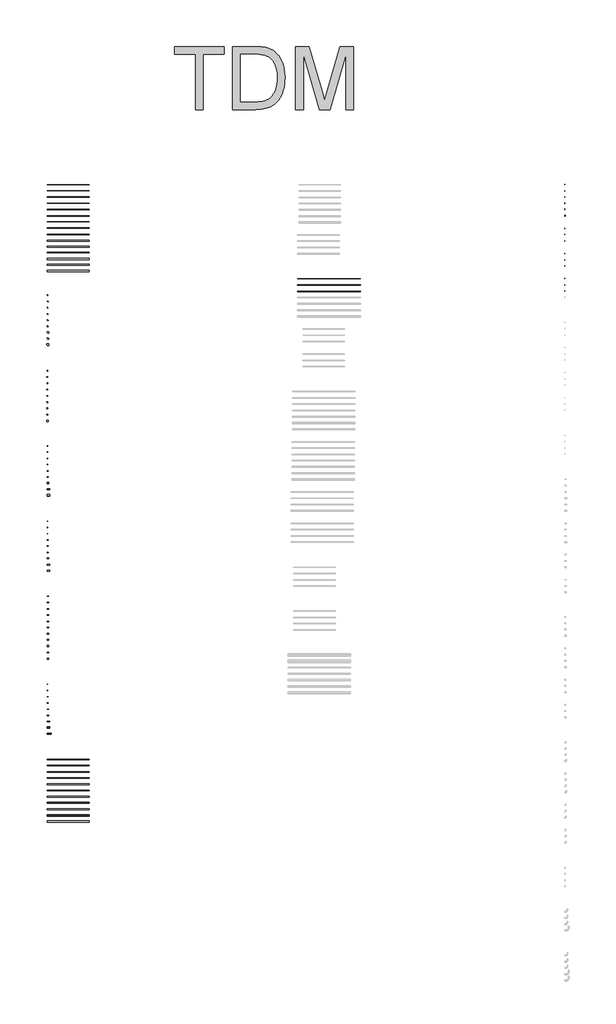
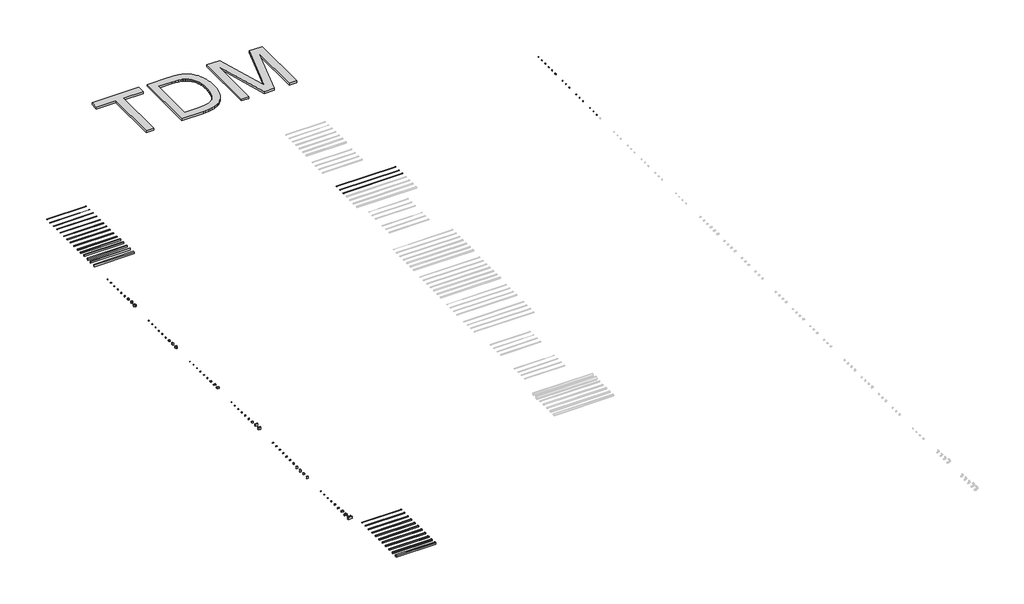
# One storey, part 3 of 3: 83 proxies, 15 cable carrier fittings, 3 cable carrier segments.
"""IFC4 building model written with IfcOpenShell, lengths in millimetres."""

from ifc_helpers import new_model, si_unit, point, frame, frame_2d, origin, place, context, project, spatial, polyline, circle_curve, trimmed, segment, composite_curve, outline, extrude, transform, mapped, element, save
from components import generic_models_2dbfc00d, generic_models_52ca76c0, generic_models_2ab848f6, generic_models_b20aceb6, generic_models_74bb6de7, generic_models_1a7fb3aa, generic_models_c3663f6d, generic_models_832ea7fc, generic_models_8934a4b0, generic_models_74339a0b, generic_models_bbe6288f, generic_models_85db04b4, generic_models_e5a57173, generic_models_41e2f946, generic_models_ccd5c1b6, generic_models_a05b5f7e, generic_models_28e29765, generic_models_53247dfa, generic_models_6c7df3c6, generic_models_ab56682e, generic_models_c4cd83af, generic_models_c2cfab9e, generic_models_fbb1afa0, generic_models_30738d87, generic_models_06d3f6ab, generic_models_bda7f662, generic_models_557376e7, generic_models_504aaa7c, generic_models_b7b44fcd, generic_models_d8408940, generic_models_b627e070, generic_models_ee9193d7, generic_models_7fb0075b, generic_models_c2dd201e, generic_models_ee7dcb77, generic_models_eb1d2137, generic_models_96342432, generic_models_cb125ba8, generic_models_8c66e826, generic_models_ad5ab705, generic_models_d6990168, generic_models_debb7f3b, generic_models_15927b50, generic_models_4f35b90a, generic_models_b8c16742, generic_models_8e5abc58, generic_models_aed9c40e, generic_models_47d5b641, generic_models_7e45a897, generic_models_1aee0386, generic_models_9b11d93a, generic_models_177de2f0, generic_models_317c2ff9, generic_models_c71bb332, generic_models_902de5ea, generic_models_53e93ef7, generic_models_1ed308b8, generic_models_b5a7e4ed, generic_models_b5faafe0, generic_models_9aea59b1, generic_models_825cb300, generic_models_8a0b4467, generic_models_da9c50e6, generic_models_e0031f47, generic_models_048f9fef, generic_models_c4528041, generic_models_a19dc477, generic_models_36f187a9, generic_models_360d6566, generic_models_2898697c, generic_models_235e8585, generic_models_2455add4, generic_models_a1a22cdc, generic_models_247a60de, generic_models_274725a3, generic_models_3b610377, cable_carrier_fitting_980a1c15, cable_carrier_fitting_b8314db6, cable_carrier_fitting_aa8de483, cable_carrier_fitting_233f67c3, cable_carrier_fitting_f0880343, cable_carrier_fitting_b63e1f67

model = new_model("IFC4")

# Units and contexts
model_context = context("Model", 3, world=origin())
ifc_project = project(units=[si_unit("LENGTHUNIT", "METRE", prefix="MILLI")], contexts=[model_context])

# Site, building, storey
site = spatial("IfcSite", under=ifc_project)
building = spatial("IfcBuilding", under=site)
storey = spatial("IfcBuildingStorey", under=building, Name="Уровень 2", Elevation=4000.0)

# Proxies
placement = place(None, origin())
element("IfcBuildingElementProxy", 1, Name="3000мм Arial", ObjectType="3000мм Arial", at=placement, inside=storey, context=model_context, shape_type="SweptSolid", body=[
    extrude(outline(polyline([(9610.1705997, 16919.659569), (9610.1705997, 19556.6377104), (8621.3037966, 19556.6377104), (8621.3037966, 19933.3488735), (10975.7485658, 19933.3488735), (10975.7485658, 19556.6377104), (9986.8817627, 19556.6377104), (9986.8817627, 16919.659569), (9610.1705997, 16919.659569)])), frame((0.0, 0.0, 3980.0), z_axis=(0.0, 0.0, 1.0), x_axis=(1.0, 0.0, 0.0)), (0.0, 0.0, 1.0), 100.0),
    extrude(outline(polyline([(11399.5486242, 16919.659569), (11399.5486242, 19933.3488735), (12439.1831426, 19933.3488735), (12604.9599667, 19930.6357438), (12749.8594875, 19922.4963546), (12873.8817051, 19908.9307061), (12977.0266195, 19889.9387981), (13040.6012268, 19873.5335603), (13101.8305864, 19854.1162888), (13160.7146982, 19831.6869834), (13217.2535624, 19806.2456442), (13271.4471788, 19777.7922711), (13323.2955475, 19746.3268642), (13372.7986685, 19711.8494235), (13419.9565417, 19674.3599489), (13477.679526, 19622.2126761), (13531.6547125, 19566.5705243), (13581.8821012, 19507.4334936), (13628.361692, 19444.8015839), (13671.093485, 19378.6747953), (13710.0774802, 19309.0531277), (13745.3136775, 19235.9365811), (13776.802077, 19159.3251556), (13804.5656714, 19079.5637406), (13828.6274531, 18996.9972253), (13848.9874223, 18911.6256098), (13865.6455789, 18823.4488941), (13878.6019229, 18732.4670781), (13887.8564543, 18638.680162), (13893.4091732, 18542.0881456), (13895.2600795, 18442.691029), (13890.2476873, 18276.1094631), (13875.2105108, 18119.2307848), (13850.1485498, 17972.0549941), (13815.0618045, 17834.582091), (13772.1115816, 17707.6857953), (13723.4591877, 17592.2398267), (13669.104623, 17488.2441852), (13609.0478872, 17395.6988708), (13544.6685381, 17313.5002375), (13477.346133, 17240.5446393), (13407.0806719, 17176.8320763), (13333.8721549, 17122.3625484), (13255.3523415, 17075.5265718), (13169.1529915, 17034.714663), (13075.2741049, 16999.9268218), (12973.7156816, 16971.1630483), (12864.3857511, 16948.6302761), (12747.192343, 16932.5354388), (12622.1354573, 16922.8785365), (12489.2150939, 16919.659569), (11399.5486242, 16919.659569)]), holes=[polyline([(11776.2597873, 17296.3707321), (12442.8619625, 17296.3707321), (12589.0490704, 17299.7736405), (12718.5895179, 17309.9823659), (12831.4833052, 17326.9969082), (12927.7304322, 17350.8172674), (13011.1476746, 17380.8456352), (13085.5518081, 17416.4842035), (13150.9428328, 17457.7329722), (13207.3207485, 17504.5919413), (13243.0915244, 17540.8570586), (13276.827453, 17580.1227135), (13308.5285343, 17622.3889058), (13338.1947683, 17667.6556357), (13365.826155, 17715.9229031), (13391.4226945, 17767.190708), (13436.5112315, 17878.7279304), (13455.7388139, 17939.0548295), (13472.4027187, 18002.4972292), (13498.0394952, 18138.7285305), (13513.4215611, 18287.4218345), (13518.5489164, 18448.577141), (13516.0369722, 18561.2869872), (13508.5011394, 18667.2829871), (13495.9414182, 18766.5651405), (13478.3578085, 18859.1334476), (13455.7503102, 18944.9879082), (13428.1189235, 19024.1285224), (13395.4636483, 19096.5552902), (13357.7844845, 19162.2682116), (13316.506975, 19222.0490358), (13273.0566625, 19276.6795121), (13227.433547, 19326.1596405), (13179.6376284, 19370.4894209), (13129.6689067, 19409.6688534), (13077.5273821, 19443.6979379), (13023.2130544, 19472.5766745), (12966.7259237, 19496.3050632), (12922.0052686, 19510.4455274), (12870.9846344, 19522.7005964), (12750.0434285, 19541.5545486), (12603.9023059, 19552.86692), (12432.5612667, 19556.6377104), (11776.2597873, 19556.6377104), (11776.2597873, 17296.3707321)])]), frame((0.0, 0.0, 3980.0), z_axis=(0.0, 0.0, 1.0), x_axis=(1.0, 0.0, 0.0)), (0.0, 0.0, 1.0), 100.0),
    extrude(outline(polyline([(14413.2379287, 16919.659569), (14413.2379287, 19933.3488735), (15061.4460042, 19933.3488735), (15678.0162281, 17809.1982333), (15802.3603425, 17365.5325472), (15937.0051527, 17845.9864329), (16543.2746808, 19933.3488735), (17191.4827563, 19933.3488735), (17191.4827563, 16919.659569), (16814.7715932, 16919.659569), (16814.7715932, 19556.6377104), (16057.6704471, 16919.659569), (15547.0502378, 16919.659569), (14789.9490918, 19556.6377104), (14789.9490918, 16919.659569), (14413.2379287, 16919.659569)])), frame((0.0, 0.0, 3980.0), z_axis=(0.0, 0.0, 1.0), x_axis=(1.0, 0.0, 0.0)), (0.0, 0.0, 1.0), 100.0),
])
generic_models_shape = generic_models_2dbfc00d(model_context)
element("IfcBuildingElementProxy", 2, Name="Внешний_угол_КМН : Внешний угол КМН 15х10", ObjectType="Внешний_угол_КМН : Внешний угол КМН 15х10", at=placement, inside=storey, context=model_context, shape_type="MappedRepresentation", body=[
    mapped(generic_models_shape, transform((2533.8954039, 8034.659569, 4000.0), x_axis=(1.0, 0.0, 0.0), y_axis=(0.0, 1.0, 0.0), z_axis=(0.0, 0.0, 1.0))),
])
generic_models_2_shape = generic_models_52ca76c0(model_context)
element("IfcBuildingElementProxy", 3, Name="Внешний_угол_КМН : Внешний угол КМН 100х60", ObjectType="Внешний_угол_КМН : Внешний угол КМН 100х60", at=placement, inside=storey, context=model_context, shape_type="MappedRepresentation", body=[
    mapped(generic_models_2_shape, transform((2533.8954039, 5659.659569, 4000.0), x_axis=(1.0, 0.0, 0.0), y_axis=(0.0, 1.0, 0.0), z_axis=(0.0, 0.0, 1.0))),
])
generic_models_3_shape = generic_models_2ab848f6(model_context)
element("IfcBuildingElementProxy", 4, Name="Внешний_угол_КМН : Внешний угол КМН 100х40", ObjectType="Внешний_угол_КМН : Внешний угол КМН 100х40", at=placement, inside=storey, context=model_context, shape_type="MappedRepresentation", body=[
    mapped(generic_models_3_shape, transform((2548.8954039, 5949.659569, 4000.0), x_axis=(1.0, 0.0, 0.0), y_axis=(0.0, 1.0, 0.0), z_axis=(0.0, 0.0, 1.0))),
])
generic_models_4_shape = generic_models_b20aceb6(model_context)
element("IfcBuildingElementProxy", 5, Name="Внешний_угол_КМН : Внешний угол КМН 60х40", ObjectType="Внешний_угол_КМН : Внешний угол КМН 60х40", at=placement, inside=storey, context=model_context, shape_type="MappedRepresentation", body=[
    mapped(generic_models_4_shape, transform((2548.8954039, 6249.659569, 4000.0), x_axis=(1.0, 0.0, 0.0), y_axis=(0.0, 1.0, 0.0), z_axis=(0.0, 0.0, 1.0))),
])
generic_models_5_shape = generic_models_74bb6de7(model_context)
element("IfcBuildingElementProxy", 6, Name="Внешний_угол_КМН : Внешний угол КМН 40х25", ObjectType="Внешний_угол_КМН : Внешний угол КМН 40х25", at=placement, inside=storey, context=model_context, shape_type="MappedRepresentation", body=[
    mapped(generic_models_5_shape, transform((2533.8954039, 6534.659569, 4000.0), x_axis=(1.0, 0.0, 0.0), y_axis=(0.0, 1.0, 0.0), z_axis=(0.0, 0.0, 1.0))),
])
generic_models_6_shape = generic_models_1a7fb3aa(model_context)
element("IfcBuildingElementProxy", 7, Name="Внешний_угол_КМН : Внешний угол КМН 40х16", ObjectType="Внешний_угол_КМН : Внешний угол КМН 40х16", at=placement, inside=storey, context=model_context, shape_type="MappedRepresentation", body=[
    mapped(generic_models_6_shape, transform((2533.8954039, 6834.659569, 4000.0), x_axis=(1.0, 0.0, 0.0), y_axis=(0.0, 1.0, 0.0), z_axis=(0.0, 0.0, 1.0))),
])
generic_models_7_shape = generic_models_c3663f6d(model_context)
element("IfcBuildingElementProxy", 8, Name="Внешний_угол_КМН : Внешний угол КМН 25х16", ObjectType="Внешний_угол_КМН : Внешний угол КМН 25х16", at=placement, inside=storey, context=model_context, shape_type="MappedRepresentation", body=[
    mapped(generic_models_7_shape, transform((2533.8954039, 7134.659569, 4000.0), x_axis=(1.0, 0.0, 0.0), y_axis=(0.0, 1.0, 0.0), z_axis=(0.0, 0.0, 1.0))),
])
generic_models_8_shape = generic_models_832ea7fc(model_context)
element("IfcBuildingElementProxy", 9, Name="Внешний_угол_КМН : Внешний угол КМН 20х10", ObjectType="Внешний_угол_КМН : Внешний угол КМН 20х10", at=placement, inside=storey, context=model_context, shape_type="MappedRepresentation", body=[
    mapped(generic_models_8_shape, transform((2533.8954039, 7434.659569, 4000.0), x_axis=(1.0, 0.0, 0.0), y_axis=(0.0, 1.0, 0.0), z_axis=(0.0, 0.0, 1.0))),
])
generic_models_9_shape = generic_models_8934a4b0(model_context)
element("IfcBuildingElementProxy", 10, Name="Внешний_угол_КМН : Внешний угол КМН 16х16", ObjectType="Внешний_угол_КМН : Внешний угол КМН 16х16", at=placement, inside=storey, context=model_context, shape_type="MappedRepresentation", body=[
    mapped(generic_models_9_shape, transform((2533.8954039, 7734.659569, 4000.0), x_axis=(1.0, 0.0, 0.0), y_axis=(0.0, 1.0, 0.0), z_axis=(0.0, 0.0, 1.0))),
])
generic_models_10_shape = generic_models_74339a0b(model_context)
element("IfcBuildingElementProxy", 11, Name="Внутренний_угол_КМВ : Внутренний угол КМВ 15х10", ObjectType="Внутренний_угол_КМВ : Внутренний угол КМВ 15х10", at=placement, inside=storey, context=model_context, shape_type="MappedRepresentation", body=[
    mapped(generic_models_10_shape, transform((2520.8954039, 4421.6710392, 4000.0), x_axis=(1.0, 0.0, 0.0), y_axis=(0.0, 1.0, 0.0), z_axis=(0.0, 0.0, 1.0))),
])
generic_models_11_shape = generic_models_bbe6288f(model_context)
element("IfcBuildingElementProxy", 12, Name="Внутренний_угол_КМВ : Внутренний угол КМВ 16х16", ObjectType="Внутренний_угол_КМВ : Внутренний угол КМВ 16х16", at=placement, inside=storey, context=model_context, shape_type="MappedRepresentation", body=[
    mapped(generic_models_11_shape, transform((2514.8839337, 4115.659569, 4000.0), x_axis=(1.0, 0.0, 0.0), y_axis=(0.0, 1.0, 0.0), z_axis=(0.0, 0.0, 1.0))),
])
generic_models_12_shape = generic_models_85db04b4(model_context)
element("IfcBuildingElementProxy", 13, Name="Внутренний_угол_КМВ : Внутренний угол КМВ 20х10", ObjectType="Внутренний_угол_КМВ : Внутренний угол КМВ 20х10", at=placement, inside=storey, context=model_context, shape_type="MappedRepresentation", body=[
    mapped(generic_models_12_shape, transform((2520.8954039, 3821.6710392, 4000.0), x_axis=(1.0, 0.0, 0.0), y_axis=(0.0, 1.0, 0.0), z_axis=(0.0, 0.0, 1.0))),
])
generic_models_13_shape = generic_models_e5a57173(model_context)
element("IfcBuildingElementProxy", 14, Name="Внутренний_угол_КМВ : Внутренний угол КМВ 25х16", ObjectType="Внутренний_угол_КМВ : Внутренний угол КМВ 25х16", at=placement, inside=storey, context=model_context, shape_type="MappedRepresentation", body=[
    mapped(generic_models_13_shape, transform((2514.8839337, 3515.659569, 4000.0), x_axis=(1.0, 0.0, 0.0), y_axis=(0.0, 1.0, 0.0), z_axis=(0.0, 0.0, 1.0))),
])
generic_models_14_shape = generic_models_41e2f946(model_context)
element("IfcBuildingElementProxy", 15, Name="Внутренний_угол_КМВ : Внутренний угол КМВ 40х16", ObjectType="Внутренний_угол_КМВ : Внутренний угол КМВ 40х16", at=placement, inside=storey, context=model_context, shape_type="MappedRepresentation", body=[
    mapped(generic_models_14_shape, transform((2514.8839337, 3215.659569, 4000.0), x_axis=(1.0, 0.0, 0.0), y_axis=(0.0, 1.0, 0.0), z_axis=(0.0, 0.0, 1.0))),
])
generic_models_15_shape = generic_models_ccd5c1b6(model_context)
element("IfcBuildingElementProxy", 16, Name="Внутренний_угол_КМВ : Внутренний угол КМВ 40х25", ObjectType="Внутренний_угол_КМВ : Внутренний угол КМВ 40х25", at=placement, inside=storey, context=model_context, shape_type="MappedRepresentation", body=[
    mapped(generic_models_15_shape, transform((2505.8954039, 2906.6710392, 4000.0), x_axis=(1.0, 0.0, 0.0), y_axis=(0.0, 1.0, 0.0), z_axis=(0.0, 0.0, 1.0))),
])
generic_models_16_shape = generic_models_a05b5f7e(model_context)
element("IfcBuildingElementProxy", 17, Name="Внутренний_угол_КМВ : Внутренний угол КМВ 60х40", ObjectType="Внутренний_угол_КМВ : Внутренний угол КМВ 60х40", at=placement, inside=storey, context=model_context, shape_type="MappedRepresentation", body=[
    mapped(generic_models_16_shape, transform((2505.8954039, 2606.6710392, 4000.0), x_axis=(1.0, 0.0, 0.0), y_axis=(0.0, 1.0, 0.0), z_axis=(0.0, 0.0, 1.0))),
])
generic_models_17_shape = generic_models_28e29765(model_context)
element("IfcBuildingElementProxy", 18, Name="Внутренний_угол_КМВ : Внутренний угол КМВ 100х40", ObjectType="Внутренний_угол_КМВ : Внутренний угол КМВ 100х40", at=placement, inside=storey, context=model_context, shape_type="MappedRepresentation", body=[
    mapped(generic_models_17_shape, transform((2505.8954039, 2306.6710392, 4000.0), x_axis=(1.0, 0.0, 0.0), y_axis=(0.0, 1.0, 0.0), z_axis=(0.0, 0.0, 1.0))),
])
generic_models_18_shape = generic_models_53247dfa(model_context)
element("IfcBuildingElementProxy", 19, Name="Внутренний_угол_КМВ : Внутренний угол КМВ 100х60", ObjectType="Внутренний_угол_КМВ : Внутренний угол КМВ 100х60", at=placement, inside=storey, context=model_context, shape_type="MappedRepresentation", body=[
    mapped(generic_models_18_shape, transform((2495.8954039, 1996.6710392, 4000.0), x_axis=(1.0, 0.0, 0.0), y_axis=(0.0, 1.0, 0.0), z_axis=(0.0, 0.0, 1.0))),
])
generic_models_19_shape = generic_models_6c7df3c6(model_context)
element("IfcBuildingElementProxy", 20, Name="Заглушка_кабельной_трассы КМЗ : Заглушка кабельной трассы КМЗ 15х10", ObjectType="Заглушка_кабельной_трассы КМЗ : Заглушка кабельной трассы КМЗ 15х10", at=placement, inside=storey, context=model_context, shape_type="MappedRepresentation", body=[
    mapped(generic_models_19_shape, transform((2570.8954039, 838.1090761, 4000.0), x_axis=(1.0, 0.0, 0.0), y_axis=(0.0, 1.0, 0.0), z_axis=(0.0, 0.0, 1.0))),
])
generic_models_20_shape = generic_models_ab56682e(model_context)
element("IfcBuildingElementProxy", 21, Name="Заглушка_кабельной_трассы КМЗ : Заглушка кабельной трассы КМЗ 100х40", ObjectType="Заглушка_кабельной_трассы КМЗ : Заглушка кабельной трассы КМЗ 100х40", at=placement, inside=storey, context=model_context, shape_type="MappedRepresentation", body=[
    mapped(generic_models_20_shape, transform((2570.8954039, -1220.3077137, 4000.0), x_axis=(1.0, 0.0, 0.0), y_axis=(0.0, 1.0, 0.0), z_axis=(0.0, 0.0, 1.0))),
])
generic_models_21_shape = generic_models_c4cd83af(model_context)
element("IfcBuildingElementProxy", 22, Name="Заглушка_кабельной_трассы КМЗ : Заглушка кабельной трассы КМЗ 100х60", ObjectType="Заглушка_кабельной_трассы КМЗ : Заглушка кабельной трассы КМЗ 100х60", at=placement, inside=storey, context=model_context, shape_type="MappedRepresentation", body=[
    mapped(generic_models_21_shape, transform((2570.8954039, -1492.1104348, 4000.0), x_axis=(1.0, 0.0, 0.0), y_axis=(0.0, 1.0, 0.0), z_axis=(0.0, 0.0, 1.0))),
])
generic_models_22_shape = generic_models_c2cfab9e(model_context)
element("IfcBuildingElementProxy", 23, Name="Заглушка_кабельной_трассы КМЗ : Заглушка кабельной трассы КМЗ 16х16", ObjectType="Заглушка_кабельной_трассы КМЗ : Заглушка кабельной трассы КМЗ 16х16", at=placement, inside=storey, context=model_context, shape_type="MappedRepresentation", body=[
    mapped(generic_models_22_shape, transform((2570.8954039, 546.1617396, 4000.0), x_axis=(1.0, 0.0, 0.0), y_axis=(0.0, 1.0, 0.0), z_axis=(0.0, 0.0, 1.0))),
])
generic_models_23_shape = generic_models_fbb1afa0(model_context)
element("IfcBuildingElementProxy", 24, Name="Заглушка_кабельной_трассы КМЗ : Заглушка кабельной трассы КМЗ 20х10", ObjectType="Заглушка_кабельной_трассы КМЗ : Заглушка кабельной трассы КМЗ 20х10", at=placement, inside=storey, context=model_context, shape_type="MappedRepresentation", body=[
    mapped(generic_models_23_shape, transform((2570.8954039, 238.1090761, 4000.0), x_axis=(1.0, 0.0, 0.0), y_axis=(0.0, 1.0, 0.0), z_axis=(0.0, 0.0, 1.0))),
])
generic_models_24_shape = generic_models_30738d87(model_context)
element("IfcBuildingElementProxy", 25, Name="Заглушка_кабельной_трассы КМЗ : Заглушка кабельной трассы КМЗ 25х16", ObjectType="Заглушка_кабельной_трассы КМЗ : Заглушка кабельной трассы КМЗ 25х16", at=placement, inside=storey, context=model_context, shape_type="MappedRepresentation", body=[
    mapped(generic_models_24_shape, transform((2570.8954039, -53.8382604, 4000.0), x_axis=(1.0, 0.0, 0.0), y_axis=(0.0, 1.0, 0.0), z_axis=(0.0, 0.0, 1.0))),
])
generic_models_25_shape = generic_models_06d3f6ab(model_context)
element("IfcBuildingElementProxy", 26, Name="Заглушка_кабельной_трассы КМЗ : Заглушка кабельной трассы КМЗ 40х16", ObjectType="Заглушка_кабельной_трассы КМЗ : Заглушка кабельной трассы КМЗ 40х16", at=placement, inside=storey, context=model_context, shape_type="MappedRepresentation", body=[
    mapped(generic_models_25_shape, transform((2570.8954039, -353.8382604, 4000.0), x_axis=(1.0, 0.0, 0.0), y_axis=(0.0, 1.0, 0.0), z_axis=(0.0, 0.0, 1.0))),
])
generic_models_26_shape = generic_models_bda7f662(model_context)
element("IfcBuildingElementProxy", 27, Name="Заглушка_кабельной_трассы КМЗ : Заглушка кабельной трассы КМЗ 40х25", ObjectType="Заглушка_кабельной_трассы КМЗ : Заглушка кабельной трассы КМЗ 40х25", at=placement, inside=storey, context=model_context, shape_type="MappedRepresentation", body=[
    mapped(generic_models_26_shape, transform((2570.8954039, -641.3601779, 4000.0), x_axis=(1.0, 0.0, 0.0), y_axis=(0.0, 1.0, 0.0), z_axis=(0.0, 0.0, 1.0))),
])
generic_models_27_shape = generic_models_557376e7(model_context)
element("IfcBuildingElementProxy", 28, Name="Заглушка_кабельной_трассы КМЗ : Заглушка кабельной трассы КМЗ 60х40", ObjectType="Заглушка_кабельной_трассы КМЗ : Заглушка кабельной трассы КМЗ 60х40", at=placement, inside=storey, context=model_context, shape_type="MappedRepresentation", body=[
    mapped(generic_models_27_shape, transform((2570.8954039, -920.3077137, 4000.0), x_axis=(1.0, 0.0, 0.0), y_axis=(0.0, 1.0, 0.0), z_axis=(0.0, 0.0, 1.0))),
])
generic_models_28_shape = generic_models_504aaa7c(model_context)
element("IfcBuildingElementProxy", 29, Name="Кабель-каналы_перфорированные : Кабель-канал перфорированный 25х25 перфорация 4/6мм", ObjectType="Кабель-каналы_перфорированные : Кабель-канал перфорированный 25х25 перфорация 4/6мм", at=placement, inside=storey, context=model_context, shape_type="MappedRepresentation", body=[
    mapped(generic_models_28_shape, transform((2518.8954039, -14160.5496104, 4000.0), x_axis=(0.0, 1.0, 0.0), y_axis=(-1.0, 0.0, 0.0), z_axis=(0.0, 0.0, 1.0))),
])
generic_models_29_shape = generic_models_b7b44fcd(model_context)
element("IfcBuildingElementProxy", 30, Name="Кабель-каналы_перфорированные : Кабель-канал перфорированный 25х40 перфорация 4/6мм", ObjectType="Кабель-каналы_перфорированные : Кабель-канал перфорированный 25х40 перфорация 4/6мм", at=placement, inside=storey, context=model_context, shape_type="MappedRepresentation", body=[
    mapped(generic_models_29_shape, transform((2518.8954039, -14460.5496104, 4000.0), x_axis=(0.0, 1.0, 0.0), y_axis=(-1.0, 0.0, 0.0), z_axis=(0.0, 0.0, 1.0))),
])
element("IfcBuildingElementProxy", 31, Name="Кабель-каналы_перфорированные : Кабель-канал перфорированный 25х40 перфорация 6/7мм", ObjectType="Кабель-каналы_перфорированные : Кабель-канал перфорированный 25х40 перфорация 6/7мм", at=placement, inside=storey, context=model_context, shape_type="MappedRepresentation", body=[
    mapped(generic_models_29_shape, transform((2518.8954039, -14760.5496104, 4000.0), x_axis=(0.0, 1.0, 0.0), y_axis=(-1.0, 0.0, 0.0), z_axis=(0.0, 0.0, 1.0))),
])
generic_models_30_shape = generic_models_d8408940(model_context)
element("IfcBuildingElementProxy", 32, Name="Кабель-каналы_перфорированные : Кабель-канал перфорированный 40х40 перфорация 4/6мм", ObjectType="Кабель-каналы_перфорированные : Кабель-канал перфорированный 40х40 перфорация 4/6мм", at=placement, inside=storey, context=model_context, shape_type="MappedRepresentation", body=[
    mapped(generic_models_30_shape, transform((2518.8954039, -15045.5496104, 4000.0), x_axis=(0.0, 1.0, 0.0), y_axis=(-1.0, 0.0, 0.0), z_axis=(0.0, 0.0, 1.0))),
])
element("IfcBuildingElementProxy", 33, Name="Кабель-каналы_перфорированные : Кабель-канал перфорированный 40х40 перфорация 6/7мм", ObjectType="Кабель-каналы_перфорированные : Кабель-канал перфорированный 40х40 перфорация 6/7мм", at=placement, inside=storey, context=model_context, shape_type="MappedRepresentation", body=[
    mapped(generic_models_30_shape, transform((2518.8954039, -15345.5496104, 4000.0), x_axis=(0.0, 1.0, 0.0), y_axis=(-1.0, 0.0, 0.0), z_axis=(0.0, 0.0, 1.0))),
])
generic_models_31_shape = generic_models_b627e070(model_context)
element("IfcBuildingElementProxy", 34, Name="Кабель-каналы_перфорированные : Кабель-канал перфорированный 40х60 перфорация 4/6мм", ObjectType="Кабель-каналы_перфорированные : Кабель-канал перфорированный 40х60 перфорация 4/6мм", at=placement, inside=storey, context=model_context, shape_type="MappedRepresentation", body=[
    mapped(generic_models_31_shape, transform((2518.8954039, -15645.5496104, 4000.0), x_axis=(0.0, 1.0, 0.0), y_axis=(-1.0, 0.0, 0.0), z_axis=(0.0, 0.0, 1.0))),
])
element("IfcBuildingElementProxy", 35, Name="Кабель-каналы_перфорированные : Кабель-канал перфорированный 40х60 перфорация 6/8мм", ObjectType="Кабель-каналы_перфорированные : Кабель-канал перфорированный 40х60 перфорация 6/8мм", at=placement, inside=storey, context=model_context, shape_type="MappedRepresentation", body=[
    mapped(generic_models_31_shape, transform((2518.8954039, -15945.5496104, 4000.0), x_axis=(0.0, 1.0, 0.0), y_axis=(-1.0, 0.0, 0.0), z_axis=(0.0, 0.0, 1.0))),
])
generic_models_32_shape = generic_models_ee9193d7(model_context)
element("IfcBuildingElementProxy", 36, Name="Кабель-каналы_перфорированные : Кабель-канал перфорированный 50х50 перфорация 4/6мм", ObjectType="Кабель-каналы_перфорированные : Кабель-канал перфорированный 50х50 перфорация 4/6мм", at=placement, inside=storey, context=model_context, shape_type="MappedRepresentation", body=[
    mapped(generic_models_32_shape, transform((2518.8954039, -16235.5496104, 4000.0), x_axis=(0.0, 1.0, 0.0), y_axis=(-1.0, 0.0, 0.0), z_axis=(0.0, 0.0, 1.0))),
])
element("IfcBuildingElementProxy", 37, Name="Кабель-каналы_перфорированные : Кабель-канал перфорированный 50х50 перфорация 6/8мм", ObjectType="Кабель-каналы_перфорированные : Кабель-канал перфорированный 50х50 перфорация 6/8мм", at=placement, inside=storey, context=model_context, shape_type="MappedRepresentation", body=[
    mapped(generic_models_32_shape, transform((2518.8954039, -16535.5496104, 4000.0), x_axis=(0.0, 1.0, 0.0), y_axis=(-1.0, 0.0, 0.0), z_axis=(0.0, 0.0, 1.0))),
])
generic_models_33_shape = generic_models_7fb0075b(model_context)
element("IfcBuildingElementProxy", 38, Name="Кабель-каналы_перфорированные : Кабель-канал перфорированный 60х60 перфорация 4/7мм", ObjectType="Кабель-каналы_перфорированные : Кабель-канал перфорированный 60х60 перфорация 4/7мм", at=placement, inside=storey, context=model_context, shape_type="MappedRepresentation", body=[
    mapped(generic_models_33_shape, transform((2518.8954039, -16825.5496104, 4000.0), x_axis=(0.0, 1.0, 0.0), y_axis=(-1.0, 0.0, 0.0), z_axis=(0.0, 0.0, 1.0))),
])
generic_models_34_shape = generic_models_c2dd201e(model_context)
element("IfcBuildingElementProxy", 39, Name="Кабель-каналы_перфорированные : Кабель-канал перфорированный 80х80 перфорация 8/11мм", ObjectType="Кабель-каналы_перфорированные : Кабель-канал перфорированный 80х80 перфорация 8/11мм", at=placement, inside=storey, context=model_context, shape_type="MappedRepresentation", body=[
    mapped(generic_models_34_shape, transform((2518.8954039, -17105.5496104, 4000.0), x_axis=(0.0, 1.0, 0.0), y_axis=(-1.0, 0.0, 0.0), z_axis=(0.0, 0.0, 1.0))),
])
generic_models_35_shape = generic_models_ee7dcb77(model_context)
element("IfcBuildingElementProxy", 40, Name="Поворот_на_90_гр.КМП : Поворот на 90 гр. КМП 100x60", ObjectType="Поворот_на_90_гр.КМП : Поворот на 90 гр. КМП 100x60", at=placement, inside=storey, context=model_context, shape_type="MappedRepresentation", body=[
    mapped(generic_models_35_shape, transform((2636.3954039, -5118.8077137, 4002.0580612), x_axis=(1.0, 0.0, 0.0), y_axis=(0.0, 1.0, 0.0), z_axis=(0.0, 0.0, 1.0))),
])
generic_models_36_shape = generic_models_eb1d2137(model_context)
element("IfcBuildingElementProxy", 41, Name="Поворот_на_90_гр.КМП : Поворот на 90 гр. КМП 100x40", ObjectType="Поворот_на_90_гр.КМП : Поворот на 90 гр. КМП 100x40", at=placement, inside=storey, context=model_context, shape_type="MappedRepresentation", body=[
    mapped(generic_models_36_shape, transform((2634.3954039, -4838.8077137, 4002.0580612), x_axis=(1.0, 0.0, 0.0), y_axis=(0.0, 1.0, 0.0), z_axis=(0.0, 0.0, 1.0))),
])
generic_models_37_shape = generic_models_96342432(model_context)
element("IfcBuildingElementProxy", 42, Name="Поворот_на_90_гр.КМП : Поворот на 90 гр. КМП 60x40", ObjectType="Поворот_на_90_гр.КМП : Поворот на 90 гр. КМП 60x40", at=placement, inside=storey, context=model_context, shape_type="MappedRepresentation", body=[
    mapped(generic_models_37_shape, transform((2590.3954039, -4538.8077137, 4002.0580612), x_axis=(1.0, 0.0, 0.0), y_axis=(0.0, 1.0, 0.0), z_axis=(0.0, 0.0, 1.0))),
])
generic_models_38_shape = generic_models_cb125ba8(model_context)
element("IfcBuildingElementProxy", 43, Name="Поворот_на_90_гр.КМП : Поворот на 90 гр. КМП 40x25", ObjectType="Поворот_на_90_гр.КМП : Поворот на 90 гр. КМП 40x25", at=placement, inside=storey, context=model_context, shape_type="MappedRepresentation", body=[
    mapped(generic_models_38_shape, transform((2569.3954039, -4253.8077137, 4002.0580612), x_axis=(1.0, 0.0, 0.0), y_axis=(0.0, 1.0, 0.0), z_axis=(0.0, 0.0, 1.0))),
])
generic_models_39_shape = generic_models_8c66e826(model_context)
element("IfcBuildingElementProxy", 44, Name="Поворот_на_90_гр.КМП : Поворот на 90 гр. КМП 40x16", ObjectType="Поворот_на_90_гр.КМП : Поворот на 90 гр. КМП 40x16", at=placement, inside=storey, context=model_context, shape_type="MappedRepresentation", body=[
    mapped(generic_models_39_shape, transform((2568.3954039, -3962.8077137, 4002.0580612), x_axis=(1.0, 0.0, 0.0), y_axis=(0.0, 1.0, 0.0), z_axis=(0.0, 0.0, 1.0))),
])
generic_models_40_shape = generic_models_ad5ab705(model_context)
element("IfcBuildingElementProxy", 45, Name="Поворот_на_90_гр.КМП : Поворот на 90 гр. КМП 25х16", ObjectType="Поворот_на_90_гр.КМП : Поворот на 90 гр. КМП 25х16", at=placement, inside=storey, context=model_context, shape_type="MappedRepresentation", body=[
    mapped(generic_models_40_shape, transform((2551.3954039, -3662.8077137, 4002.0580612), x_axis=(1.0, 0.0, 0.0), y_axis=(0.0, 1.0, 0.0), z_axis=(0.0, 0.0, 1.0))),
])
generic_models_41_shape = generic_models_d6990168(model_context)
element("IfcBuildingElementProxy", 46, Name="Поворот_на_90_гр.КМП : Поворот на 90 гр. КМП 20x10", ObjectType="Поворот_на_90_гр.КМП : Поворот на 90 гр. КМП 20x10", at=placement, inside=storey, context=model_context, shape_type="MappedRepresentation", body=[
    mapped(generic_models_41_shape, transform((2546.3954039, -3368.8077137, 4002.0580612), x_axis=(1.0, 0.0, 0.0), y_axis=(0.0, 1.0, 0.0), z_axis=(0.0, 0.0, 1.0))),
])
generic_models_42_shape = generic_models_debb7f3b(model_context)
element("IfcBuildingElementProxy", 47, Name="Поворот_на_90_гр.КМП : Поворот на 90 гр. КМП 16х16", ObjectType="Поворот_на_90_гр.КМП : Поворот на 90 гр. КМП 16х16", at=placement, inside=storey, context=model_context, shape_type="MappedRepresentation", body=[
    mapped(generic_models_42_shape, transform((2543.8954039, -3062.8077137, 4002.0580612), x_axis=(1.0, 0.0, 0.0), y_axis=(0.0, 1.0, 0.0), z_axis=(0.0, 0.0, 1.0))),
])
generic_models_43_shape = generic_models_15927b50(model_context)
element("IfcBuildingElementProxy", 48, Name="Поворот_на_90_гр.КМП : Поворот на 90 гр. КМП 15х10", ObjectType="Поворот_на_90_гр.КМП : Поворот на 90 гр. КМП 15х10", at=placement, inside=storey, context=model_context, shape_type="MappedRepresentation", body=[
    mapped(generic_models_43_shape, transform((2541.3954039, -2768.8077137, 4002.0580612), x_axis=(1.0, 0.0, 0.0), y_axis=(0.0, 1.0, 0.0), z_axis=(0.0, 0.0, 1.0))),
])
generic_models_44_shape = generic_models_4f35b90a(model_context)
element("IfcBuildingElementProxy", 49, Name="Соединитель_КМС : Соединитель КМС 15х10", ObjectType="Соединитель_КМС : Соединитель КМС 15х10", at=placement, inside=storey, context=model_context, shape_type="MappedRepresentation", body=[
    mapped(generic_models_44_shape, transform((2518.8954039, -6368.3077137, 4000.0), x_axis=(1.0, 0.0, 0.0), y_axis=(0.0, 1.0, 0.0), z_axis=(0.0, 0.0, 1.0))),
])
generic_models_45_shape = generic_models_b8c16742(model_context)
element("IfcBuildingElementProxy", 50, Name="Соединитель_КМС : Соединитель КМС 16х16", ObjectType="Соединитель_КМС : Соединитель КМС 16х16", at=placement, inside=storey, context=model_context, shape_type="MappedRepresentation", body=[
    mapped(generic_models_45_shape, transform((2518.8954039, -6662.3077137, 4000.0), x_axis=(1.0, 0.0, 0.0), y_axis=(0.0, 1.0, 0.0), z_axis=(0.0, 0.0, 1.0))),
])
generic_models_46_shape = generic_models_8e5abc58(model_context)
element("IfcBuildingElementProxy", 51, Name="Соединитель_КМС : Соединитель КМС 20х10", ObjectType="Соединитель_КМС : Соединитель КМС 20х10", at=placement, inside=storey, context=model_context, shape_type="MappedRepresentation", body=[
    mapped(generic_models_46_shape, transform((2518.8954039, -6968.3077137, 4000.0), x_axis=(1.0, 0.0, 0.0), y_axis=(0.0, 1.0, 0.0), z_axis=(0.0, 0.0, 1.0))),
])
generic_models_47_shape = generic_models_aed9c40e(model_context)
element("IfcBuildingElementProxy", 52, Name="Соединитель_КМС : Соединитель КМС 25х16", ObjectType="Соединитель_КМС : Соединитель КМС 25х16", at=placement, inside=storey, context=model_context, shape_type="MappedRepresentation", body=[
    mapped(generic_models_47_shape, transform((2518.8954039, -7262.3077137, 4000.0), x_axis=(1.0, 0.0, 0.0), y_axis=(0.0, 1.0, 0.0), z_axis=(0.0, 0.0, 1.0))),
])
generic_models_48_shape = generic_models_47d5b641(model_context)
element("IfcBuildingElementProxy", 53, Name="Соединитель_КМС : Соединитель КМС 40x16", ObjectType="Соединитель_КМС : Соединитель КМС 40x16", at=placement, inside=storey, context=model_context, shape_type="MappedRepresentation", body=[
    mapped(generic_models_48_shape, transform((2518.8954039, -7562.3077137, 4000.0), x_axis=(1.0, 0.0, 0.0), y_axis=(0.0, 1.0, 0.0), z_axis=(0.0, 0.0, 1.0))),
])
generic_models_49_shape = generic_models_7e45a897(model_context)
element("IfcBuildingElementProxy", 54, Name="Соединитель_КМС : Соединитель КМС 40x25", ObjectType="Соединитель_КМС : Соединитель КМС 40x25", at=placement, inside=storey, context=model_context, shape_type="MappedRepresentation", body=[
    mapped(generic_models_49_shape, transform((2518.8954039, -7853.3077137, 4000.0), x_axis=(1.0, 0.0, 0.0), y_axis=(0.0, 1.0, 0.0), z_axis=(0.0, 0.0, 1.0))),
])
generic_models_50_shape = generic_models_1aee0386(model_context)
element("IfcBuildingElementProxy", 55, Name="Соединитель_КМС : Соединитель КМС 60x40", ObjectType="Соединитель_КМС : Соединитель КМС 60x40", at=placement, inside=storey, context=model_context, shape_type="MappedRepresentation", body=[
    mapped(generic_models_50_shape, transform((2518.8954039, -8138.3077137, 4000.0), x_axis=(1.0, 0.0, 0.0), y_axis=(0.0, 1.0, 0.0), z_axis=(0.0, 0.0, 1.0))),
])
generic_models_51_shape = generic_models_9b11d93a(model_context)
element("IfcBuildingElementProxy", 56, Name="Соединитель_КМС : Соединитель КМС 100х40", ObjectType="Соединитель_КМС : Соединитель КМС 100х40", at=placement, inside=storey, context=model_context, shape_type="MappedRepresentation", body=[
    mapped(generic_models_51_shape, transform((2518.8954039, -8438.3077137, 4000.0), x_axis=(1.0, 0.0, 0.0), y_axis=(0.0, 1.0, 0.0), z_axis=(0.0, 0.0, 1.0))),
])
generic_models_52_shape = generic_models_177de2f0(model_context)
element("IfcBuildingElementProxy", 57, Name="Соединитель_КМС : Соединитель КМС 100х60", ObjectType="Соединитель_КМС : Соединитель КМС 100х60", at=placement, inside=storey, context=model_context, shape_type="MappedRepresentation", body=[
    mapped(generic_models_52_shape, transform((2518.8954039, -8718.3077137, 4000.0), x_axis=(1.0, 0.0, 0.0), y_axis=(0.0, 1.0, 0.0), z_axis=(0.0, 0.0, 1.0))),
])
element("IfcBuildingElementProxy", 58, Name="Соединитель_КМС : Соединитель на стык КМС 60х40", ObjectType="Соединитель_КМС : Соединитель на стык КМС 60х40", at=placement, inside=storey, context=model_context, shape_type="MappedRepresentation", body=[
    mapped(generic_models_50_shape, transform((2518.8954039, -9038.3077137, 4000.0), x_axis=(1.0, 0.0, 0.0), y_axis=(0.0, 1.0, 0.0), z_axis=(0.0, 0.0, 1.0))),
])
element("IfcBuildingElementProxy", 59, Name="Соединитель_КМС : Соединитель на стык КМС 100х40", ObjectType="Соединитель_КМС : Соединитель на стык КМС 100х40", at=placement, inside=storey, context=model_context, shape_type="MappedRepresentation", body=[
    mapped(generic_models_51_shape, transform((2518.8954039, -9338.3077137, 4000.0), x_axis=(1.0, 0.0, 0.0), y_axis=(0.0, 1.0, 0.0), z_axis=(0.0, 0.0, 1.0))),
])
generic_models_53_shape = generic_models_317c2ff9(model_context)
element("IfcBuildingElementProxy", 60, Name="Угол_Т-образный КМТ : Угол Т-образный КМТ 15х10", ObjectType="Угол_Т-образный КМТ : Угол Т-образный КМТ 15х10", at=placement, inside=storey, context=model_context, shape_type="MappedRepresentation", body=[
    mapped(generic_models_53_shape, transform((2533.3954039, -10572.5474103, 4000.0), x_axis=(1.0, 0.0, 0.0), y_axis=(0.0, 1.0, 0.0), z_axis=(0.0, 0.0, 1.0))),
])
generic_models_54_shape = generic_models_c71bb332(model_context)
element("IfcBuildingElementProxy", 61, Name="Угол_Т-образный КМТ : Угол Т-образный КМТ 16х16", ObjectType="Угол_Т-образный КМТ : Угол Т-образный КМТ 16х16", at=placement, inside=storey, context=model_context, shape_type="MappedRepresentation", body=[
    mapped(generic_models_54_shape, transform((2534.3954039, -10866.5474103, 4000.0), x_axis=(1.0, 0.0, 0.0), y_axis=(0.0, 1.0, 0.0), z_axis=(0.0, 0.0, 1.0))),
])
generic_models_55_shape = generic_models_902de5ea(model_context)
element("IfcBuildingElementProxy", 62, Name="Угол_Т-образный КМТ : Угол Т-образный КМТ 20х10", ObjectType="Угол_Т-образный КМТ : Угол Т-образный КМТ 20х10", at=placement, inside=storey, context=model_context, shape_type="MappedRepresentation", body=[
    mapped(generic_models_55_shape, transform((2538.3954039, -11172.5474103, 4000.0), x_axis=(1.0, 0.0, 0.0), y_axis=(0.0, 1.0, 0.0), z_axis=(0.0, 0.0, 1.0))),
])
generic_models_56_shape = generic_models_53e93ef7(model_context)
element("IfcBuildingElementProxy", 63, Name="Угол_Т-образный КМТ : Угол Т-образный КМТ 25х16", ObjectType="Угол_Т-образный КМТ : Угол Т-образный КМТ 25х16", at=placement, inside=storey, context=model_context, shape_type="MappedRepresentation", body=[
    mapped(generic_models_56_shape, transform((2543.3954039, -11466.5474103, 4000.0), x_axis=(1.0, 0.0, 0.0), y_axis=(0.0, 1.0, 0.0), z_axis=(0.0, 0.0, 1.0))),
])
generic_models_57_shape = generic_models_1ed308b8(model_context)
element("IfcBuildingElementProxy", 64, Name="Угол_Т-образный КМТ : Угол Т-образный КМТ 40x16", ObjectType="Угол_Т-образный КМТ : Угол Т-образный КМТ 40x16", at=placement, inside=storey, context=model_context, shape_type="MappedRepresentation", body=[
    mapped(generic_models_57_shape, transform((2558.3954039, -11766.5474103, 4000.0), x_axis=(1.0, 0.0, 0.0), y_axis=(0.0, 1.0, 0.0), z_axis=(0.0, 0.0, 1.0))),
])
generic_models_58_shape = generic_models_b5a7e4ed(model_context)
element("IfcBuildingElementProxy", 65, Name="Угол_Т-образный КМТ : Угол Т-образный КМТ 40x25", ObjectType="Угол_Т-образный КМТ : Угол Т-образный КМТ 40x25", at=placement, inside=storey, context=model_context, shape_type="MappedRepresentation", body=[
    mapped(generic_models_58_shape, transform((2558.3954039, -12057.5474103, 4000.0), x_axis=(1.0, 0.0, 0.0), y_axis=(0.0, 1.0, 0.0), z_axis=(0.0, 0.0, 1.0))),
])
generic_models_59_shape = generic_models_b5faafe0(model_context)
element("IfcBuildingElementProxy", 66, Name="Угол_Т-образный КМТ : Угол Т-образный КМТ 60x40", ObjectType="Угол_Т-образный КМТ : Угол Т-образный КМТ 60x40", at=placement, inside=storey, context=model_context, shape_type="MappedRepresentation", body=[
    mapped(generic_models_59_shape, transform((2578.3954039, -12342.5474103, 4000.0), x_axis=(1.0, 0.0, 0.0), y_axis=(0.0, 1.0, 0.0), z_axis=(0.0, 0.0, 1.0))),
])
generic_models_60_shape = generic_models_9aea59b1(model_context)
element("IfcBuildingElementProxy", 67, Name="Угол_Т-образный КМТ : Угол Т-образный КМТ 100х40", ObjectType="Угол_Т-образный КМТ : Угол Т-образный КМТ 100х40", at=placement, inside=storey, context=model_context, shape_type="MappedRepresentation", body=[
    mapped(generic_models_60_shape, transform((2578.3954039, -12622.5474103, 4000.0), x_axis=(1.0, 0.0, 0.0), y_axis=(0.0, 1.0, 0.0), z_axis=(0.0, 0.0, 1.0))),
])
generic_models_61_shape = generic_models_825cb300(model_context)
element("IfcBuildingElementProxy", 68, Name="Угол_Т-образный КМТ : Угол Т-образный КМТ 100х60", ObjectType="Угол_Т-образный КМТ : Угол Т-образный КМТ 100х60", at=placement, inside=storey, context=model_context, shape_type="MappedRepresentation", body=[
    mapped(generic_models_61_shape, transform((2618.3954039, -12920.7474103, 4000.0), x_axis=(1.0, 0.0, 0.0), y_axis=(0.0, 1.0, 0.0), z_axis=(0.0, 0.0, 1.0))),
])
generic_models_62_shape = generic_models_8a0b4467(model_context)
element("IfcBuildingElementProxy", 69, Name="Кабель-каналы_магистральные_цвет-белый : Кабель-канал магистральный 12х12 белый", ObjectType="Кабель-каналы_магистральные_цвет-белый : Кабель-канал магистральный 12х12 белый", at=placement, inside=storey, context=model_context, shape_type="MappedRepresentation", body=[
    mapped(generic_models_62_shape, transform((2518.8954039, 13331.659569, 4000.0), x_axis=(1.0, 0.0, 0.0), y_axis=(0.0, 1.0, 0.0), z_axis=(0.0, 0.0, 1.0))),
])
generic_models_63_shape = generic_models_da9c50e6(model_context)
element("IfcBuildingElementProxy", 70, Name="Кабель-каналы_магистральные_цвет-белый : Кабель-канал магистральный 15х10 белый", ObjectType="Кабель-каналы_магистральные_цвет-белый : Кабель-канал магистральный 15х10 белый", at=placement, inside=storey, context=model_context, shape_type="MappedRepresentation", body=[
    mapped(generic_models_63_shape, transform((2518.8954039, 13034.659569, 4000.0), x_axis=(1.0, 0.0, 0.0), y_axis=(0.0, 1.0, 0.0), z_axis=(0.0, 0.0, 1.0))),
])
generic_models_64_shape = generic_models_e0031f47(model_context)
element("IfcBuildingElementProxy", 71, Name="Кабель-каналы_магистральные_цвет-белый : Кабель-канал магистральный 16х16 белый", ObjectType="Кабель-каналы_магистральные_цвет-белый : Кабель-канал магистральный 16х16 белый", at=placement, inside=storey, context=model_context, shape_type="MappedRepresentation", body=[
    mapped(generic_models_64_shape, transform((2518.8954039, 12735.659569, 4000.0), x_axis=(1.0, 0.0, 0.0), y_axis=(0.0, 1.0, 0.0), z_axis=(0.0, 0.0, 1.0))),
])
generic_models_65_shape = generic_models_048f9fef(model_context)
element("IfcBuildingElementProxy", 72, Name="Кабель-каналы_магистральные_цвет-белый : Кабель-канал магистральный 20х10 белый", ObjectType="Кабель-каналы_магистральные_цвет-белый : Кабель-канал магистральный 20х10 белый", at=placement, inside=storey, context=model_context, shape_type="MappedRepresentation", body=[
    mapped(generic_models_65_shape, transform((2518.8954039, 12439.659569, 4000.0), x_axis=(1.0, 0.0, 0.0), y_axis=(0.0, 1.0, 0.0), z_axis=(0.0, 0.0, 1.0))),
])
generic_models_66_shape = generic_models_c4528041(model_context)
element("IfcBuildingElementProxy", 73, Name="Кабель-каналы_магистральные_цвет-белый : Кабель-канал магистральный 25х16 белый", ObjectType="Кабель-каналы_магистральные_цвет-белый : Кабель-канал магистральный 25х16 белый", at=placement, inside=storey, context=model_context, shape_type="MappedRepresentation", body=[
    mapped(generic_models_66_shape, transform((2518.8954039, 12144.659569, 4000.0), x_axis=(1.0, 0.0, 0.0), y_axis=(0.0, 1.0, 0.0), z_axis=(0.0, 0.0, 1.0))),
])
generic_models_67_shape = generic_models_a19dc477(model_context)
element("IfcBuildingElementProxy", 74, Name="Кабель-каналы_магистральные_цвет-белый : Кабель-канал магистральный 25х25 белый", ObjectType="Кабель-каналы_магистральные_цвет-белый : Кабель-канал магистральный 25х25 белый", at=placement, inside=storey, context=model_context, shape_type="MappedRepresentation", body=[
    mapped(generic_models_67_shape, transform((2518.8954039, 11844.659569, 4000.0), x_axis=(1.0, 0.0, 0.0), y_axis=(0.0, 1.0, 0.0), z_axis=(0.0, 0.0, 1.0))),
])
generic_models_68_shape = generic_models_36f187a9(model_context)
element("IfcBuildingElementProxy", 75, Name="Кабель-каналы_магистральные_цвет-белый : Кабель-канал магистральный 30/2х10 белый", ObjectType="Кабель-каналы_магистральные_цвет-белый : Кабель-канал магистральный 30/2х10 белый", at=placement, inside=storey, context=model_context, shape_type="MappedRepresentation", body=[
    mapped(generic_models_68_shape, transform((2518.8954039, 11549.659569, 4000.0), x_axis=(1.0, 0.0, 0.0), y_axis=(0.0, 1.0, 0.0), z_axis=(0.0, 0.0, 1.0))),
])
generic_models_69_shape = generic_models_360d6566(model_context)
element("IfcBuildingElementProxy", 76, Name="Кабель-каналы_магистральные_цвет-белый : Кабель-канал магистральный 40х16 белый", ObjectType="Кабель-каналы_магистральные_цвет-белый : Кабель-канал магистральный 40х16 белый", at=placement, inside=storey, context=model_context, shape_type="MappedRepresentation", body=[
    mapped(generic_models_69_shape, transform((2518.8954039, 11259.659569, 4000.0), x_axis=(1.0, 0.0, 0.0), y_axis=(0.0, 1.0, 0.0), z_axis=(0.0, 0.0, 1.0))),
])
generic_models_70_shape = generic_models_2898697c(model_context)
element("IfcBuildingElementProxy", 77, Name="Кабель-каналы_магистральные_цвет-белый : Кабель-канал магистральный 40х25 белый", ObjectType="Кабель-каналы_магистральные_цвет-белый : Кабель-канал магистральный 40х25 белый", at=placement, inside=storey, context=model_context, shape_type="MappedRepresentation", body=[
    mapped(generic_models_70_shape, transform((2518.8954039, 10959.659569, 4000.0), x_axis=(1.0, 0.0, 0.0), y_axis=(0.0, 1.0, 0.0), z_axis=(0.0, 0.0, 1.0))),
])
generic_models_71_shape = generic_models_235e8585(model_context)
element("IfcBuildingElementProxy", 78, Name="Кабель-каналы_магистральные_цвет-белый : Кабель-канал магистральный 40х40 белый", ObjectType="Кабель-каналы_магистральные_цвет-белый : Кабель-канал магистральный 40х40 белый", at=placement, inside=storey, context=model_context, shape_type="MappedRepresentation", body=[
    mapped(generic_models_71_shape, transform((2518.8954039, 10659.659569, 4000.0), x_axis=(1.0, 0.0, 0.0), y_axis=(0.0, 1.0, 0.0), z_axis=(0.0, 0.0, 1.0))),
])
generic_models_72_shape = generic_models_2455add4(model_context)
element("IfcBuildingElementProxy", 79, Name="Кабель-каналы_магистральные_цвет-белый : Кабель-канал магистральный 60х40 белый", ObjectType="Кабель-каналы_магистральные_цвет-белый : Кабель-канал магистральный 60х40 белый", at=placement, inside=storey, context=model_context, shape_type="MappedRepresentation", body=[
    mapped(generic_models_72_shape, transform((2518.8954039, 10379.659569, 4000.0), x_axis=(1.0, 0.0, 0.0), y_axis=(0.0, 1.0, 0.0), z_axis=(0.0, 0.0, 1.0))),
])
generic_models_73_shape = generic_models_a1a22cdc(model_context)
element("IfcBuildingElementProxy", 80, Name="Кабель-каналы_магистральные_цвет-белый : Кабель-канал магистральный 80х40 белый", ObjectType="Кабель-каналы_магистральные_цвет-белый : Кабель-канал магистральный 80х40 белый", at=placement, inside=storey, context=model_context, shape_type="MappedRepresentation", body=[
    mapped(generic_models_73_shape, transform((2518.8954039, 10099.659569, 4000.0), x_axis=(1.0, 0.0, 0.0), y_axis=(0.0, 1.0, 0.0), z_axis=(0.0, 0.0, 1.0))),
])
generic_models_74_shape = generic_models_247a60de(model_context)
element("IfcBuildingElementProxy", 81, Name="Кабель-каналы_магистральные_цвет-белый : Кабель-канал магистральный 80х60 белый", ObjectType="Кабель-каналы_магистральные_цвет-белый : Кабель-канал магистральный 80х60 белый", at=placement, inside=storey, context=model_context, shape_type="MappedRepresentation", body=[
    mapped(generic_models_74_shape, transform((2518.8954039, 9799.659569, 4000.0), x_axis=(1.0, 0.0, 0.0), y_axis=(0.0, 1.0, 0.0), z_axis=(0.0, 0.0, 1.0))),
])
generic_models_75_shape = generic_models_274725a3(model_context)
element("IfcBuildingElementProxy", 82, Name="Кабель-каналы_магистральные_цвет-белый : Кабель-канал магистральный 100х40 белый", ObjectType="Кабель-каналы_магистральные_цвет-белый : Кабель-канал магистральный 100х40 белый", at=placement, inside=storey, context=model_context, shape_type="MappedRepresentation", body=[
    mapped(generic_models_75_shape, transform((2518.8954039, 9519.659569, 4000.0), x_axis=(1.0, 0.0, 0.0), y_axis=(0.0, 1.0, 0.0), z_axis=(0.0, 0.0, 1.0))),
])
generic_models_76_shape = generic_models_3b610377(model_context)
element("IfcBuildingElementProxy", 83, Name="Кабель-каналы_магистральные_цвет-белый : Кабель-канал магистральный 100х60 белый", ObjectType="Кабель-каналы_магистральные_цвет-белый : Кабель-канал магистральный 100х60 белый", at=placement, inside=storey, context=model_context, shape_type="MappedRepresentation", body=[
    mapped(generic_models_76_shape, transform((2518.8954039, 9219.659569, 4000.0), x_axis=(1.0, 0.0, 0.0), y_axis=(0.0, 1.0, 0.0), z_axis=(0.0, 0.0, 1.0))),
])

# Cable carrier fittings
cable_carrier_fitting_shape = cable_carrier_fitting_980a1c15(model_context)
element("IfcCableCarrierFitting", 84, ObjectType="Крепеж-клипса_для_труб : Крепеж-клипса для трубы 16мм", at=placement, inside=storey, context=model_context, shape_type="MappedRepresentation", body=[
    mapped(cable_carrier_fitting_shape, transform((27300.1376507, 13329.159569, 4000.0), x_axis=(1.0, 0.0, 0.0), y_axis=(0.0, 1.0, 0.0), z_axis=(0.0, 0.0, 1.0))),
])
cable_carrier_fitting_2_shape = cable_carrier_fitting_b8314db6(model_context)
element("IfcCableCarrierFitting", 85, ObjectType="Крепеж-клипса_для_труб : Крепеж-клипса для трубы 25мм", at=placement, inside=storey, context=model_context, shape_type="MappedRepresentation", body=[
    mapped(cable_carrier_fitting_2_shape, transform((27300.1376507, 12733.659569, 4000.0), x_axis=(1.0, 0.0, 0.0), y_axis=(0.0, 1.0, 0.0), z_axis=(0.0, 0.0, 1.0))),
])
cable_carrier_fitting_3_shape = cable_carrier_fitting_aa8de483(model_context)
element("IfcCableCarrierFitting", 86, ObjectType="Крепеж-клипса_для_труб : Крепеж-клипса для трубы 40мм", at=placement, inside=storey, context=model_context, shape_type="MappedRepresentation", body=[
    mapped(cable_carrier_fitting_3_shape, transform((27300.1376507, 12141.159569, 4000.0), x_axis=(1.0, 0.0, 0.0), y_axis=(0.0, 1.0, 0.0), z_axis=(0.0, 0.0, 1.0))),
])
cable_carrier_fitting_4_shape = cable_carrier_fitting_233f67c3(model_context)
element("IfcCableCarrierFitting", 87, ObjectType="Крепеж-клипса_для_труб : Крепеж-клипса для трубы 50мм", at=placement, inside=storey, context=model_context, shape_type="MappedRepresentation", body=[
    mapped(cable_carrier_fitting_4_shape, transform((27305.1376507, 11846.159569, 4000.0), x_axis=(1.0, 0.0, 0.0), y_axis=(0.0, 1.0, 0.0), z_axis=(0.0, 0.0, 1.0))),
])
cable_carrier_fitting_5_shape = cable_carrier_fitting_f0880343(model_context)
element("IfcCableCarrierFitting", 88, ObjectType="Крепеж-клипса_для_труб : Крепеж-клипса для трубы 20мм \"ЭКО\" (бук)", at=placement, inside=storey, context=model_context, shape_type="MappedRepresentation", body=[
    mapped(cable_carrier_fitting_5_shape, transform((27300.1376507, 10931.159569, 4000.0), x_axis=(1.0, 0.0, 0.0), y_axis=(0.0, 1.0, 0.0), z_axis=(0.0, 0.0, 1.0))),
])
element("IfcCableCarrierFitting", 89, ObjectType="Крепеж-клипса_для_труб : Крепеж-клипса для трубы 16мм \"ЭКО\" (бук)", at=placement, inside=storey, context=model_context, shape_type="MappedRepresentation", body=[
    mapped(cable_carrier_fitting_shape, transform((27300.1376507, 11229.159569, 4000.0), x_axis=(1.0, 0.0, 0.0), y_axis=(0.0, 1.0, 0.0), z_axis=(0.0, 0.0, 1.0))),
])
element("IfcCableCarrierFitting", 90, ObjectType="Крепеж-клипса_для_труб : Крепеж-клипса для трубы 25мм \"ЭКО\" (бук)", at=placement, inside=storey, context=model_context, shape_type="MappedRepresentation", body=[
    mapped(cable_carrier_fitting_2_shape, transform((27300.1376507, 10633.659569, 4000.0), x_axis=(1.0, 0.0, 0.0), y_axis=(0.0, 1.0, 0.0), z_axis=(0.0, 0.0, 1.0))),
])
element("IfcCableCarrierFitting", 91, ObjectType="Крепеж-клипса_для_труб : Крепеж-клипса для трубы 20мм", at=placement, inside=storey, context=model_context, shape_type="MappedRepresentation", body=[
    mapped(cable_carrier_fitting_5_shape, transform((27300.1376507, 13031.159569, 4000.0), x_axis=(1.0, 0.0, 0.0), y_axis=(0.0, 1.0, 0.0), z_axis=(0.0, 0.0, 1.0))),
])
element("IfcCableCarrierFitting", 92, ObjectType="Крепеж-клипса_для_труб : Крепеж-клипса для трубы 16мм \"ЭКО\" (сосна)", at=placement, inside=storey, context=model_context, shape_type="MappedRepresentation", body=[
    mapped(cable_carrier_fitting_shape, transform((27300.1376507, 10029.159569, 4000.0), x_axis=(1.0, 0.0, 0.0), y_axis=(0.0, 1.0, 0.0), z_axis=(0.0, 0.0, 1.0))),
])
element("IfcCableCarrierFitting", 93, ObjectType="Крепеж-клипса_для_труб : Крепеж-клипса для трубы 20мм \"ЭКО\" (сосна)", at=placement, inside=storey, context=model_context, shape_type="MappedRepresentation", body=[
    mapped(cable_carrier_fitting_5_shape, transform((27300.1376507, 9731.159569, 4000.0), x_axis=(1.0, 0.0, 0.0), y_axis=(0.0, 1.0, 0.0), z_axis=(0.0, 0.0, 1.0))),
])
element("IfcCableCarrierFitting", 94, ObjectType="Крепеж-клипса_для_труб : Крепеж-клипса для трубы 25мм \"ЭКО\" (сосна)", at=placement, inside=storey, context=model_context, shape_type="MappedRepresentation", body=[
    mapped(cable_carrier_fitting_2_shape, transform((27300.1376507, 9433.659569, 4000.0), x_axis=(1.0, 0.0, 0.0), y_axis=(0.0, 1.0, 0.0), z_axis=(0.0, 0.0, 1.0))),
])
element("IfcCableCarrierFitting", 95, ObjectType="Крепеж-клипса_для_труб : Крепеж-клипса для трубы 16мм белая", at=placement, inside=storey, context=model_context, shape_type="MappedRepresentation", body=[
    mapped(cable_carrier_fitting_shape, transform((27300.1376507, 8829.159569, 4000.0), x_axis=(1.0, 0.0, 0.0), y_axis=(0.0, 1.0, 0.0), z_axis=(0.0, 0.0, 1.0))),
])
element("IfcCableCarrierFitting", 96, ObjectType="Крепеж-клипса_для_труб : Крепеж-клипса для трубы 20мм белая", at=placement, inside=storey, context=model_context, shape_type="MappedRepresentation", body=[
    mapped(cable_carrier_fitting_5_shape, transform((27300.1376507, 8531.159569, 4000.0), x_axis=(1.0, 0.0, 0.0), y_axis=(0.0, 1.0, 0.0), z_axis=(0.0, 0.0, 1.0))),
])
element("IfcCableCarrierFitting", 97, ObjectType="Крепеж-клипса_для_труб : Крепеж-клипса для трубы 25мм белая", at=placement, inside=storey, context=model_context, shape_type="MappedRepresentation", body=[
    mapped(cable_carrier_fitting_2_shape, transform((27300.1376507, 8233.659569, 4000.0), x_axis=(1.0, 0.0, 0.0), y_axis=(0.0, 1.0, 0.0), z_axis=(0.0, 0.0, 1.0))),
])
cable_carrier_fitting_6_shape = cable_carrier_fitting_b63e1f67(model_context)
element("IfcCableCarrierFitting", 98, ObjectType="Крепеж-клипса_для_труб : Крепеж-клипса для трубы 32мм", at=placement, inside=storey, context=model_context, shape_type="MappedRepresentation", body=[
    mapped(cable_carrier_fitting_6_shape, transform((27300.1376507, 12437.159569, 4000.0), x_axis=(1.0, 0.0, 0.0), y_axis=(0.0, 1.0, 0.0), z_axis=(0.0, 0.0, 1.0))),
])

# Cable carrier segments
element("IfcCableCarrierSegment", 99, ObjectType="По умолчанию", at=placement, inside=storey, context=model_context, shape_type="SweptSolid", body=[
    extrude(outline(composite_curve([segment(trimmed(circle_curve(frame_2d((8819.659569, 4298.3533272)), 8.965), [point((8810.694569, 4298.3533272))], [point((8819.659569, 4307.3183272))], False, "CARTESIAN"), True, "CONTINUOUS"), segment(trimmed(circle_curve(frame_2d((8819.659569, 4298.3533272)), 8.965), [point((8819.659569, 4307.3183272))], [point((8828.624569, 4298.3533272))], False, "CARTESIAN"), True, "CONTINUOUS"), segment(trimmed(circle_curve(frame_2d((8819.659569, 4298.3533272)), 8.965), [point((8828.624569, 4298.3533272))], [point((8819.659569, 4289.3883272))], False, "CARTESIAN"), True, "CONTINUOUS"), segment(trimmed(circle_curve(frame_2d((8819.659569, 4298.3533272)), 8.965), [point((8819.659569, 4289.3883272))], [point((8810.694569, 4298.3533272))], False, "CARTESIAN"), True, "CONTINUOUS")], self_intersect=False)), frame((14508.3384569, 0.0, 0.0), z_axis=(1.0, 0.0, 0.0), x_axis=(0.0, 1.0, 0.0)), (0.0, 0.0, 1.0), 3000.0),
])
element("IfcCableCarrierSegment", 100, ObjectType="По умолчанию", at=placement, inside=storey, context=model_context, shape_type="SweptSolid", body=[
    extrude(outline(composite_curve([segment(trimmed(circle_curve(frame_2d((8519.659569, 4298.3533272)), 10.0), [point((8509.659569, 4298.3533272))], [point((8519.659569, 4308.3533272))], False, "CARTESIAN"), True, "CONTINUOUS"), segment(trimmed(circle_curve(frame_2d((8519.659569, 4298.3533272)), 10.0), [point((8519.659569, 4308.3533272))], [point((8529.659569, 4298.3533272))], False, "CARTESIAN"), True, "CONTINUOUS"), segment(trimmed(circle_curve(frame_2d((8519.659569, 4298.3533272)), 10.0), [point((8529.659569, 4298.3533272))], [point((8519.659569, 4288.3533272))], False, "CARTESIAN"), True, "CONTINUOUS"), segment(trimmed(circle_curve(frame_2d((8519.659569, 4298.3533272)), 10.0), [point((8519.659569, 4288.3533272))], [point((8509.659569, 4298.3533272))], False, "CARTESIAN"), True, "CONTINUOUS")], self_intersect=False)), frame((14508.3384569, 0.0, 0.0), z_axis=(1.0, 0.0, 0.0), x_axis=(0.0, 1.0, 0.0)), (0.0, 0.0, 1.0), 3000.0),
])
element("IfcCableCarrierSegment", 101, ObjectType="По умолчанию", at=placement, inside=storey, context=model_context, shape_type="SweptSolid", body=[
    extrude(outline(composite_curve([segment(trimmed(circle_curve(frame_2d((8219.659569, 4298.3533272)), 12.5), [point((8207.159569, 4298.3533272))], [point((8219.659569, 4310.8533272))], False, "CARTESIAN"), True, "CONTINUOUS"), segment(trimmed(circle_curve(frame_2d((8219.659569, 4298.3533272)), 12.5), [point((8219.659569, 4310.8533272))], [point((8232.159569, 4298.3533272))], False, "CARTESIAN"), True, "CONTINUOUS"), segment(trimmed(circle_curve(frame_2d((8219.659569, 4298.3533272)), 12.5), [point((8232.159569, 4298.3533272))], [point((8219.659569, 4285.8533272))], False, "CARTESIAN"), True, "CONTINUOUS"), segment(trimmed(circle_curve(frame_2d((8219.659569, 4298.3533272)), 12.5), [point((8219.659569, 4285.8533272))], [point((8207.159569, 4298.3533272))], False, "CARTESIAN"), True, "CONTINUOUS")], self_intersect=False)), frame((14508.3384569, 0.0, 0.0), z_axis=(1.0, 0.0, 0.0), x_axis=(0.0, 1.0, 0.0)), (0.0, 0.0, 1.0), 3000.0),
])

save(model, "model.ifc")
